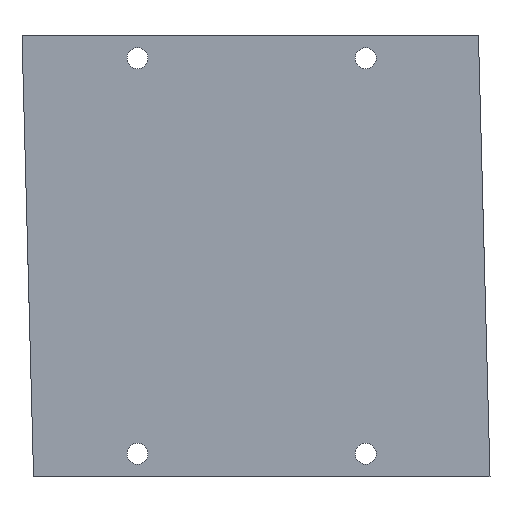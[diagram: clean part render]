
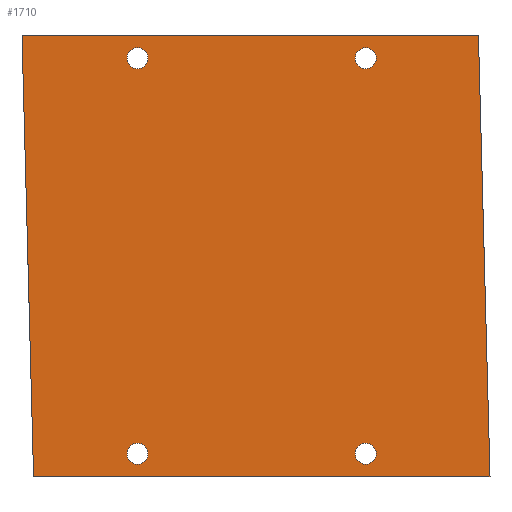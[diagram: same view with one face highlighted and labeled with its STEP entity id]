
A CAD part, front view. The second image highlights one B-rep face of the part: STEP entity #1710.
In plain terms, the highlighted planar face has unit normal (0, -1, 0).
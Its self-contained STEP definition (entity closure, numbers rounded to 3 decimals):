
#5 = AXIS2_PLACEMENT_3D ( 'NONE', #2168, #953, #439 ) ;
#11 = VERTEX_POINT ( 'NONE', #1700 ) ;
#21 = EDGE_CURVE ( 'NONE', #561, #763, #2030, .T. ) ;
#27 = DIRECTION ( 'NONE',  ( 0., 1., 0. ) ) ;
#40 = DIRECTION ( 'NONE',  ( 0., 1., 0. ) ) ;
#67 = FACE_BOUND ( 'NONE', #2039, .T. ) ;
#81 = CARTESIAN_POINT ( 'NONE',  ( -29.63, 0., -52. ) ) ;
#115 = ORIENTED_EDGE ( 'NONE', *, *, #1383, .T. ) ;
#123 = VERTEX_POINT ( 'NONE', #877 ) ;
#149 = ORIENTED_EDGE ( 'NONE', *, *, #1916, .T. ) ;
#179 = LINE ( 'NONE', #2252, #323 ) ;
#186 = CARTESIAN_POINT ( 'NONE',  ( 30.37, 0., -54.75 ) ) ;
#187 = VERTEX_POINT ( 'NONE', #186 ) ;
#190 = VERTEX_POINT ( 'NONE', #506 ) ;
#201 = EDGE_LOOP ( 'NONE', ( #1848, #2250 ) ) ;
#223 = CARTESIAN_POINT ( 'NONE',  ( -29.63, 0., 52. ) ) ;
#261 = EDGE_CURVE ( 'NONE', #187, #1709, #2169, .T. ) ;
#262 = ORIENTED_EDGE ( 'NONE', *, *, #659, .T. ) ;
#316 = DIRECTION ( 'NONE',  ( 0., -1., 0. ) ) ;
#323 = VECTOR ( 'NONE', #336, 1000. ) ;
#336 = DIRECTION ( 'NONE',  ( 0.026, 0., -1. ) ) ;
#374 = CARTESIAN_POINT ( 'NONE',  ( -60., 0., 58. ) ) ;
#392 = CIRCLE ( 'NONE', #5, 2.75 ) ;
#428 = DIRECTION ( 'NONE',  ( 0., 0., 1. ) ) ;
#439 = DIRECTION ( 'NONE',  ( 0., 0., 1. ) ) ;
#472 = PLANE ( 'NONE',  #1792 ) ;
#505 = ORIENTED_EDGE ( 'NONE', *, *, #831, .T. ) ;
#506 = CARTESIAN_POINT ( 'NONE',  ( 60., 0., 58. ) ) ;
#510 = AXIS2_PLACEMENT_3D ( 'NONE', #1355, #1196, #1214 ) ;
#537 = AXIS2_PLACEMENT_3D ( 'NONE', #1794, #1453, #1421 ) ;
#559 = CARTESIAN_POINT ( 'NONE',  ( -29.63, 0., -54.75 ) ) ;
#561 = VERTEX_POINT ( 'NONE', #1375 ) ;
#569 = DIRECTION ( 'NONE',  ( 0., 1., 0. ) ) ;
#571 = EDGE_LOOP ( 'NONE', ( #1925, #2033, #2195, #1691 ) ) ;
#625 = EDGE_CURVE ( 'NONE', #123, #11, #1335, .T. ) ;
#641 = AXIS2_PLACEMENT_3D ( 'NONE', #1767, #569, #1756 ) ;
#642 = VECTOR ( 'NONE', #947, 1000. ) ;
#643 = CIRCLE ( 'NONE', #1983, 2.75 ) ;
#659 = EDGE_CURVE ( 'NONE', #11, #123, #2085, .T. ) ;
#693 = ORIENTED_EDGE ( 'NONE', *, *, #625, .T. ) ;
#699 = CIRCLE ( 'NONE', #537, 2.75 ) ;
#729 = VECTOR ( 'NONE', #950, 1000. ) ;
#738 = CARTESIAN_POINT ( 'NONE',  ( 30.37, 0., 54.75 ) ) ;
#750 = EDGE_CURVE ( 'NONE', #763, #1297, #2223, .T. ) ;
#763 = VERTEX_POINT ( 'NONE', #2179 ) ;
#778 = CARTESIAN_POINT ( 'NONE',  ( 60., 0., 58. ) ) ;
#796 = ORIENTED_EDGE ( 'NONE', *, *, #261, .T. ) ;
#831 = EDGE_CURVE ( 'NONE', #1000, #1021, #1309, .T. ) ;
#877 = CARTESIAN_POINT ( 'NONE',  ( -29.63, 0., 54.75 ) ) ;
#947 = DIRECTION ( 'NONE',  ( 1., 0., 0. ) ) ;
#950 = DIRECTION ( 'NONE',  ( -0.026, 0., 1. ) ) ;
#953 = DIRECTION ( 'NONE',  ( 0., 1., 0. ) ) ;
#1000 = VERTEX_POINT ( 'NONE', #738 ) ;
#1002 = CARTESIAN_POINT ( 'NONE',  ( 0., 0., 0. ) ) ;
#1021 = VERTEX_POINT ( 'NONE', #1947 ) ;
#1029 = EDGE_CURVE ( 'NONE', #1048, #1437, #392, .T. ) ;
#1048 = VERTEX_POINT ( 'NONE', #1995 ) ;
#1085 = CARTESIAN_POINT ( 'NONE',  ( -29.63, 0., 52. ) ) ;
#1107 = EDGE_CURVE ( 'NONE', #1437, #1048, #643, .T. ) ;
#1117 = CARTESIAN_POINT ( 'NONE',  ( -60., 0., 58. ) ) ;
#1175 = EDGE_CURVE ( 'NONE', #190, #561, #179, .T. ) ;
#1196 = DIRECTION ( 'NONE',  ( 0., 1., 0. ) ) ;
#1214 = DIRECTION ( 'NONE',  ( 0., 0., 1. ) ) ;
#1217 = AXIS2_PLACEMENT_3D ( 'NONE', #1085, #40, #1784 ) ;
#1273 = DIRECTION ( 'NONE',  ( 0., 0., 1. ) ) ;
#1276 = DIRECTION ( 'NONE',  ( 0., 1., 0. ) ) ;
#1297 = VERTEX_POINT ( 'NONE', #374 ) ;
#1300 = DIRECTION ( 'NONE',  ( 0., 1., 0. ) ) ;
#1309 = CIRCLE ( 'NONE', #510, 2.75 ) ;
#1331 = FACE_BOUND ( 'NONE', #1372, .T. ) ;
#1333 = DIRECTION ( 'NONE',  ( -1., 0., 0. ) ) ;
#1335 = CIRCLE ( 'NONE', #2098, 2.75 ) ;
#1355 = CARTESIAN_POINT ( 'NONE',  ( 30.37, 0., 52. ) ) ;
#1372 = EDGE_LOOP ( 'NONE', ( #505, #115 ) ) ;
#1375 = CARTESIAN_POINT ( 'NONE',  ( 63.04, 0., -58. ) ) ;
#1383 = EDGE_CURVE ( 'NONE', #1021, #1000, #699, .T. ) ;
#1388 = CIRCLE ( 'NONE', #2110, 2.75 ) ;
#1421 = DIRECTION ( 'NONE',  ( 0., 0., 1. ) ) ;
#1422 = DIRECTION ( 'NONE',  ( 0., 0., 1. ) ) ;
#1437 = VERTEX_POINT ( 'NONE', #559 ) ;
#1453 = DIRECTION ( 'NONE',  ( 0., 1., 0. ) ) ;
#1499 = FACE_OUTER_BOUND ( 'NONE', #571, .T. ) ;
#1505 = CARTESIAN_POINT ( 'NONE',  ( -56.96, 0., -58. ) ) ;
#1616 = CARTESIAN_POINT ( 'NONE',  ( 30.37, 0., -52. ) ) ;
#1691 = ORIENTED_EDGE ( 'NONE', *, *, #21, .F. ) ;
#1700 = CARTESIAN_POINT ( 'NONE',  ( -29.63, 0., 49.25 ) ) ;
#1709 = VERTEX_POINT ( 'NONE', #2208 ) ;
#1710 = ADVANCED_FACE ( 'NONE', ( #1331, #1964, #67, #1857, #1499 ), #472, .T. ) ;
#1756 = DIRECTION ( 'NONE',  ( 0., 0., 1. ) ) ;
#1767 = CARTESIAN_POINT ( 'NONE',  ( 30.37, 0., -52. ) ) ;
#1784 = DIRECTION ( 'NONE',  ( 0., 0., 1. ) ) ;
#1792 = AXIS2_PLACEMENT_3D ( 'NONE', #1002, #316, #2225 ) ;
#1794 = CARTESIAN_POINT ( 'NONE',  ( 30.37, 0., 52. ) ) ;
#1848 = ORIENTED_EDGE ( 'NONE', *, *, #1029, .T. ) ;
#1857 = FACE_BOUND ( 'NONE', #1959, .T. ) ;
#1916 = EDGE_CURVE ( 'NONE', #1709, #187, #1388, .T. ) ;
#1918 = EDGE_CURVE ( 'NONE', #1297, #190, #2024, .T. ) ;
#1925 = ORIENTED_EDGE ( 'NONE', *, *, #1175, .F. ) ;
#1947 = CARTESIAN_POINT ( 'NONE',  ( 30.37, 0., 49.25 ) ) ;
#1959 = EDGE_LOOP ( 'NONE', ( #693, #262 ) ) ;
#1964 = FACE_BOUND ( 'NONE', #201, .T. ) ;
#1983 = AXIS2_PLACEMENT_3D ( 'NONE', #81, #1300, #1273 ) ;
#1995 = CARTESIAN_POINT ( 'NONE',  ( -29.63, 0., -49.25 ) ) ;
#2024 = LINE ( 'NONE', #778, #642 ) ;
#2030 = LINE ( 'NONE', #1505, #2199 ) ;
#2033 = ORIENTED_EDGE ( 'NONE', *, *, #1918, .F. ) ;
#2039 = EDGE_LOOP ( 'NONE', ( #149, #796 ) ) ;
#2085 = CIRCLE ( 'NONE', #1217, 2.75 ) ;
#2098 = AXIS2_PLACEMENT_3D ( 'NONE', #223, #27, #1422 ) ;
#2110 = AXIS2_PLACEMENT_3D ( 'NONE', #1616, #1276, #428 ) ;
#2168 = CARTESIAN_POINT ( 'NONE',  ( -29.63, 0., -52. ) ) ;
#2169 = CIRCLE ( 'NONE', #641, 2.75 ) ;
#2179 = CARTESIAN_POINT ( 'NONE',  ( -56.96, 0., -58. ) ) ;
#2195 = ORIENTED_EDGE ( 'NONE', *, *, #750, .F. ) ;
#2199 = VECTOR ( 'NONE', #1333, 1000. ) ;
#2208 = CARTESIAN_POINT ( 'NONE',  ( 30.37, 0., -49.25 ) ) ;
#2223 = LINE ( 'NONE', #1117, #729 ) ;
#2225 = DIRECTION ( 'NONE',  ( 0., 0., -1. ) ) ;
#2250 = ORIENTED_EDGE ( 'NONE', *, *, #1107, .T. ) ;
#2252 = CARTESIAN_POINT ( 'NONE',  ( 63.04, 0., -58. ) ) ;
